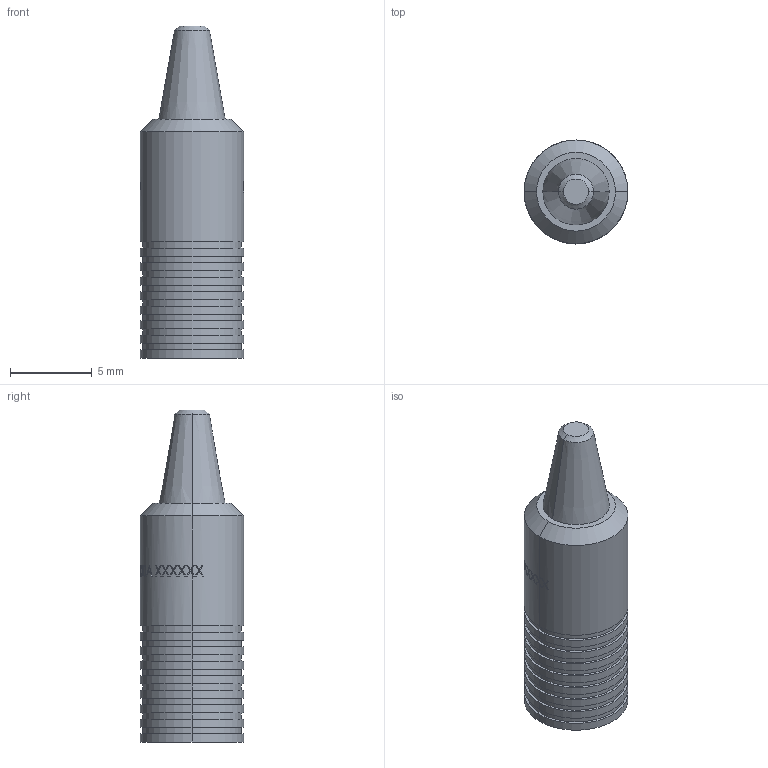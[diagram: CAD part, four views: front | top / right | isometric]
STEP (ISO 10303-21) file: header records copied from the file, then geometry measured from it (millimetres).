
FILE_DESCRIPTION (( 'STEP AP214' ), '1' );
FILE_NAME ('3DFSCA2502000A.STEP', '2021-04-22T15:27:39', ( '' ), ( '' ), 'SwSTEP 2.0', 'SolidWorks 2019', '' );
FILE_SCHEMA (( 'AUTOMOTIVE_DESIGN' ));
Length unit declared in the file: inch
Products named in the file (1): 3DFSCA2502000A
Bounding box: 6.35 x 6.35 x 20.32 mm (x, y, z)
Volume: 411.9 mm3; surface area: 535.2 mm2
Topology: 1 solids, 1 shells, 336 faces, 864 edges, 574 vertices
Faces by surface type: bspline 150, plane 107, cylinder 71, cone 8
Entity records: 18059 total; most frequent: CARTESIAN_POINT 7648, ORIENTED_EDGE 1728, DIRECTION 968, EDGE_CURVE 864, VERTEX_POINT 574, B_SPLINE_CURVE_WITH_KNOTS 494, AXIS2_PLACEMENT_3D 411, EDGE_LOOP 380
